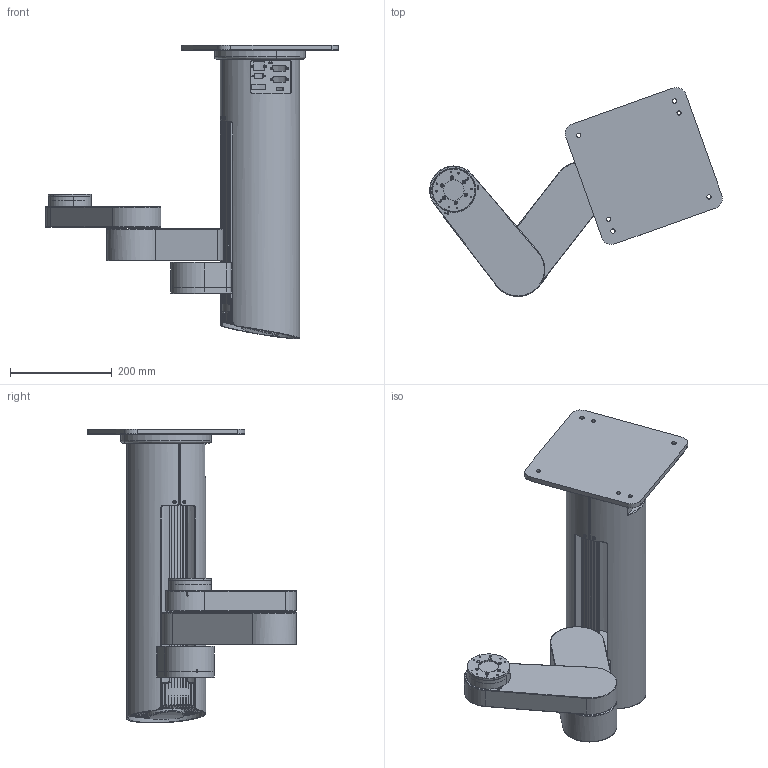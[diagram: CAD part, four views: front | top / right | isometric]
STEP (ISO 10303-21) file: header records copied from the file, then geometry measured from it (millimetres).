
FILE_DESCRIPTION(('CATIA V5 STEP Exchange'),'2;1');
FILE_NAME('F:\LYJ 工作文件\机械臂系列\Z-Arm 2140\低配版本\D24 v1.4 版本 外发立体图\外发立体图\Z-Arm 2140 V1.7.0.stp','2019-08-02T12:03:46+00:00',('none'),('none'),'CATIA Version 5 Release 20 GA (IN-10)','CATIA V5 STEP AP203','none');
FILE_SCHEMA(('CONFIG_CONTROL_DESIGN'));
Products named in the file (1): ZARM  2140
Assembly tree (3 placements, depth 2):
  ZARM  2140
    #58
    #823
    #5299
Bounding box: 574.77 x 409.49 x 577.2 mm (x, y, z)
Volume: 3461277.9 mm3; surface area: 1068916.6 mm2
Topology: 11 solids, 12 shells, 1116 faces, 2903 edges, 1802 vertices
Faces by surface type: cylinder 432, plane 340, bspline 168, cone 106, torus 50, sphere 12, extrusion 8
Entity records: 41908 total; most frequent: CARTESIAN_POINT 17799, ORIENTED_EDGE 5670, DIRECTION 3508, EDGE_CURVE 2835, VERTEX_POINT 1800, AXIS2_PLACEMENT_3D 1630, EDGE_LOOP 1297, VECTOR 1197
